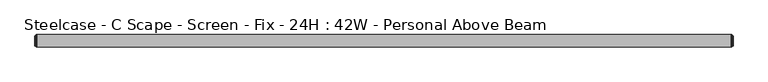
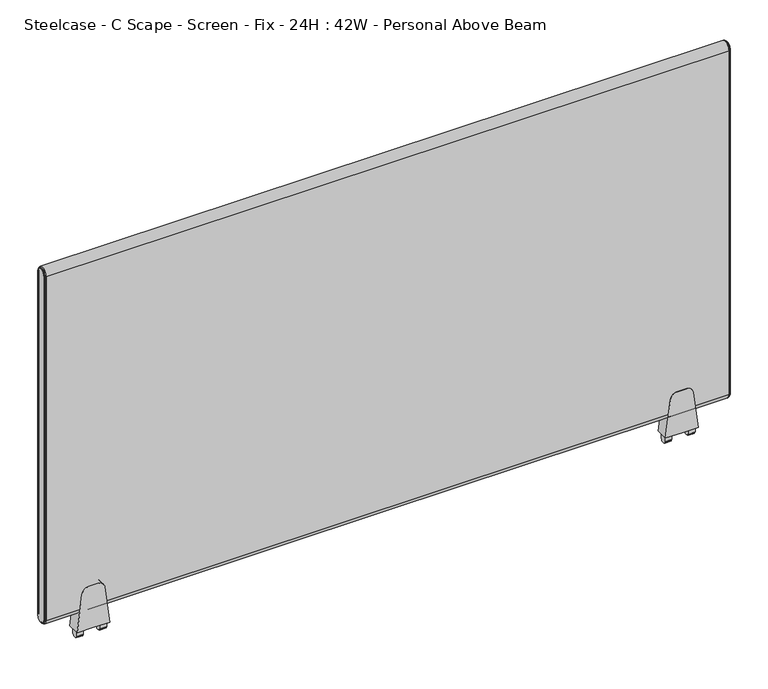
"""IFC4 building model written with IfcOpenShell, lengths in millimetres: furniture geometry, Steelcase - C Scape - Screen - Fix - 24H : 42W - Personal Above Beam."""

import ifcopenshell
import ifcopenshell.guid

model = None  # the IFC model being written
_history = None  # IfcOwnerHistory: only IFC2X3 demands one
_inside = {}  # id of a spatial element -> (the spatial element, [elements in it])
_under = {}  # id of a project, library or spatial element -> (it, [spatial elements below it])
_declared = {}  # id of a project -> (the project, [libraries it declares])
_typed = {}  # id of a type object -> (the type object, [elements of that type])
_made_of = {}  # id of a material, layer set ... -> (it, [elements and type objects made of it])


def new_model(schema):
    """Start an empty IFC model of exactly this schema.

    Asked for "IFC4X3", IfcOpenShell would pick the latest addendum, in which some entities
    have other attributes; the version numbers below select the first issue.
    IFC2X3 requires an IfcOwnerHistory on every rooted entity: one is made here for all.
    """
    global model, _history
    if schema == "IFC4X3":
        model = ifcopenshell.file(schema_version=(4, 3, 0, 0))
    else:
        model = ifcopenshell.file(schema=schema)
    _inside.clear()
    _under.clear()
    _declared.clear()
    _typed.clear()
    _made_of.clear()
    _history = None
    if model.schema == "IFC2X3":
        org = make("IfcOrganization", Name="unknown")
        user = make(
            "IfcPersonAndOrganization",
            ThePerson=make("IfcPerson", FamilyName="unknown"),
            TheOrganization=org,
        )
        app = make(
            "IfcApplication",
            ApplicationDeveloper=org,
            Version="unknown",
            ApplicationFullName="unknown",
            ApplicationIdentifier="unknown",
        )
        _history = make(
            "IfcOwnerHistory",
            OwningUser=user,
            OwningApplication=app,
            ChangeAction="ADDED",
            CreationDate=0,
        )
    return model


def make(cls, **values):
    """One entity of the class cls with the attributes given. An attribute that is None is left unset."""
    return model.create_entity(
        cls, **{name: value for name, value in values.items() if value is not None}
    )


def rooted(cls, **values):
    """An entity with a GlobalId (a new one), such as an element, a storey or a relation."""
    return make(cls, GlobalId=ifcopenshell.guid.new(), OwnerHistory=_history, **values)


def si_unit(unit_type, name, prefix=None):
    """IfcSIUnit, for example si_unit("LENGTHUNIT", "METRE", prefix="MILLI")."""
    return make("IfcSIUnit", UnitType=unit_type, Prefix=prefix, Name=name)


def assignment(units):
    """IfcUnitAssignment: the units of a project."""
    return None if units is None else make("IfcUnitAssignment", Units=units)


def point(xyz):
    """IfcCartesianPoint."""
    return None if xyz is None else make("IfcCartesianPoint", Coordinates=xyz)


def direction(xyz):
    """IfcDirection."""
    return None if xyz is None else make("IfcDirection", DirectionRatios=xyz)


def frame(location, z_axis=None, x_axis=None):
    """IfcAxis2Placement3D, a coordinate frame: its origin and axes. An axis left out is left unset."""
    return make(
        "IfcAxis2Placement3D",
        Location=point(location),
        Axis=direction(z_axis),
        RefDirection=direction(x_axis),
    )


def frame_2d(location, x_axis=None):
    """IfcAxis2Placement2D, a coordinate frame in the plane: its origin and x axis."""
    return make(
        "IfcAxis2Placement2D", Location=point(location), RefDirection=direction(x_axis)
    )


def origin():
    """The frame at (0, 0, 0) with its axes left unset."""
    return frame((0.0, 0.0, 0.0))


def place(relative_to, where):
    """IfcLocalPlacement: puts the frame where relative to a parent placement (None: the world)."""
    return make(
        "IfcLocalPlacement", PlacementRelTo=relative_to, RelativePlacement=where
    )


def context(
    kind, dimensions, precision=None, world=None, true_north=None, identifier=None
):
    """IfcGeometricRepresentationContext, for example the 3D "Model" context."""
    return make(
        "IfcGeometricRepresentationContext",
        ContextIdentifier=identifier,
        ContextType=kind,
        CoordinateSpaceDimension=dimensions,
        Precision=precision,
        WorldCoordinateSystem=world,
        TrueNorth=true_north,
    )


def project(units=None, contexts=None):
    """IfcProject with its units and contexts."""
    return rooted(
        "IfcProject",
        Name="project",
        RepresentationContexts=contexts,
        UnitsInContext=assignment(units),
    )


def spatial(cls, under=None, at=None, **own):
    """A site, building, storey or space (cls), placed at a placement, below another one or the project."""
    s = rooted(cls, ObjectPlacement=at, **own)
    if under is not None:
        _under.setdefault(under.id(), (under, []))[1].append(s)
    return s


def polyline(points):
    """IfcPolyline through the points."""
    return make("IfcPolyline", Points=[point(p) for p in points])


def circle_curve(where, radius):
    """IfcCircle in the frame where."""
    return make("IfcCircle", Position=where, Radius=radius)


def ellipse_curve(where, semi_axis1, semi_axis2):
    """IfcEllipse in the frame where."""
    return make(
        "IfcEllipse", Position=where, SemiAxis1=semi_axis1, SemiAxis2=semi_axis2
    )


def trimmed(basis, trim1, trim2, sense, master):
    """IfcTrimmedCurve: the piece of a basis curve between two trims."""
    return make(
        "IfcTrimmedCurve",
        BasisCurve=basis,
        Trim1=trim1,
        Trim2=trim2,
        SenseAgreement=sense,
        MasterRepresentation=master,
    )


def segment(curve, same_sense, transition):
    """IfcCompositeCurveSegment."""
    return make(
        "IfcCompositeCurveSegment",
        Transition=transition,
        SameSense=same_sense,
        ParentCurve=curve,
    )


def composite_curve(segments, self_intersect=None):
    """IfcCompositeCurve: segments joined end to end."""
    return make("IfcCompositeCurve", Segments=segments, SelfIntersect=self_intersect)


def outline(outer, holes=None, kind="AREA"):
    """IfcArbitraryClosedProfileDef: a profile drawn as a closed curve; with holes, ...WithVoids."""
    if holes is None:
        return make("IfcArbitraryClosedProfileDef", ProfileType=kind, OuterCurve=outer)
    return make(
        "IfcArbitraryProfileDefWithVoids",
        ProfileType=kind,
        OuterCurve=outer,
        InnerCurves=holes,
    )


def extrude(swept, where, along, depth):
    """IfcExtrudedAreaSolid: the profile swept, set in the frame where, extruded along a direction by depth."""
    return make(
        "IfcExtrudedAreaSolid",
        SweptArea=swept,
        Position=where,
        ExtrudedDirection=direction(along),
        Depth=depth,
    )


def shape(context_of_items, identifier, shape_type, items):
    """IfcShapeRepresentation: the items that make up one representation, for example the "Body"."""
    return make(
        "IfcShapeRepresentation",
        ContextOfItems=context_of_items,
        RepresentationIdentifier=identifier,
        RepresentationType=shape_type,
        Items=items,
    )


def source(mapping_origin, context_of_items, identifier, shape_type, items):
    """IfcRepresentationMap: a shape defined once, which mapped items show again and again."""
    return make(
        "IfcRepresentationMap",
        MappingOrigin=mapping_origin,
        MappedRepresentation=shape(context_of_items, identifier, shape_type, items),
    )


def transform(
    local_origin,
    x_axis=None,
    y_axis=None,
    z_axis=None,
    scale=None,
    scale2=None,
    scale3=None,
    uniform=True,
):
    """IfcCartesianTransformationOperator3D, or its non-uniform kind. x_axis, y_axis, z_axis: its Axis1, 2, 3."""
    if uniform:
        return make(
            "IfcCartesianTransformationOperator3D",
            Axis1=direction(x_axis),
            Axis2=direction(y_axis),
            LocalOrigin=point(local_origin),
            Scale=scale,
            Axis3=direction(z_axis),
        )
    return make(
        "IfcCartesianTransformationOperator3DnonUniform",
        Axis1=direction(x_axis),
        Axis2=direction(y_axis),
        LocalOrigin=point(local_origin),
        Scale=scale,
        Axis3=direction(z_axis),
        Scale2=scale2,
        Scale3=scale3,
    )


def mapped(mapping_source, mapping_target):
    """IfcMappedItem: shows the shape of a source again, moved by a transform."""
    return make(
        "IfcMappedItem", MappingSource=mapping_source, MappingTarget=mapping_target
    )


def made_of(thing, what):
    """Note that an element or type object is made of a material, layer set ...; save() writes the relation."""
    if what is not None:
        _made_of.setdefault(what.id(), (what, []))[1].append(thing)
    return thing


def element(
    cls,
    number,
    at=None,
    inside=None,
    cuts=None,
    type_object=None,
    material=None,
    context=None,
    identifier="Body",
    shape_type=None,
    held_by="IfcProductDefinitionShape",
    body=None,
    shapes=None,
    **own,
):
    """One element of the class cls, such as IfcWall. Its Tag is "e" and its number.

    at: its placement. inside: the storey or other place that contains it. cuts: it is an
    opening in that element (IfcRelVoidsElement). A single representation is given by context,
    identifier, shape_type and body (its items); several are given by shapes. held_by: the class
    of the entity that holds the representations. save() writes the other relations.
    """
    e = rooted(cls, Tag="e%d" % number, ObjectPlacement=at, **own)
    if body is not None:
        shapes = [shape(context, identifier, shape_type, body)]
    if shapes is not None:
        e.Representation = make(held_by, Representations=shapes)
    if inside is not None:
        _inside.setdefault(inside.id(), (inside, []))[1].append(e)
    if cuts is not None:
        rooted(
            "IfcRelVoidsElement", RelatingBuildingElement=cuts, RelatedOpeningElement=e
        )
    if type_object is not None:
        _typed.setdefault(type_object.id(), (type_object, []))[1].append(e)
    return made_of(e, material)


def aggregate(whole, parts):
    """IfcRelAggregates: a whole, such as a stair, and the parts it consists of."""
    return rooted("IfcRelAggregates", RelatingObject=whole, RelatedObjects=parts)


def save(model, path):
    """Write the relations noted so far, then the file.

    IfcRelAggregates (storeys below a building ...), IfcRelContainedInSpatialStructure (elements
    in a storey), IfcRelDefinesByType, IfcRelAssociatesMaterial and IfcRelDeclares: one each for
    every whole, place, type object, material and project.
    """
    for whole, parts in _under.values():
        aggregate(whole, parts)
    for where, things in _inside.values():
        rooted(
            "IfcRelContainedInSpatialStructure",
            RelatedElements=things,
            RelatingStructure=where,
        )
    for kind, things in _typed.values():
        rooted("IfcRelDefinesByType", RelatedObjects=things, RelatingType=kind)
    for what, things in _made_of.values():
        rooted("IfcRelAssociatesMaterial", RelatedObjects=things, RelatingMaterial=what)
    for by, libraries in _declared.values():
        rooted("IfcRelDeclares", RelatingContext=by, RelatedDefinitions=libraries)
    model.write(path)


def plane_surface(at):
    """IfcPlane: the flat surface through the origin of the frame at, square to its z axis."""
    return make("IfcPlane", Position=at)


def cylinder_surface(at, radius):
    """IfcCylindricalSurface: all points at the distance radius from the z axis of the frame at."""
    return make("IfcCylindricalSurface", Position=at, Radius=radius)


def revolved_surface(curve, axis_point, axis_direction):
    """IfcSurfaceOfRevolution: the curve turned about the line through axis_point along axis_direction."""
    return make(
        "IfcSurfaceOfRevolution",
        SweptCurve=make("IfcArbitraryOpenProfileDef", ProfileType="CURVE", Curve=curve),
        AxisPosition=make("IfcAxis1Placement", Location=point(axis_point), Axis=direction(axis_direction)),
    )


def advanced_brep(points, edges, surfaces, faces):
    """IfcAdvancedBrep: a solid bounded by faces that lie on surfaces and meet in shared edges.

    An edge is (start, end): straight between two places in points (the first is 0);
    or (start, end, curve); or (start, end, curve, False) where it runs against its curve.
    A face is (place in surfaces, loops), or (place, loops, False) where it looks against
    its surface's normal. A loop lists edges by number (the first is 1), with a minus sign
    where the edge is run from its end to its start. The first loop is the outer one.
    """
    corners = [point(p) for p in points]
    vertices = [make("IfcVertexPoint", VertexGeometry=c) for c in corners]
    made = []
    for start, end, *more in edges:
        made.append(
            make(
                "IfcEdgeCurve",
                EdgeStart=vertices[start],
                EdgeEnd=vertices[end],
                EdgeGeometry=more[0] if more else make("IfcPolyline", Points=[corners[start], corners[end]]),
                SameSense=more[1] if len(more) > 1 else True,
            )
        )
    hull = []
    for where, loops, *sense in faces:
        bounds = []
        for j, loop in enumerate(loops):
            ring = [make("IfcOrientedEdge", EdgeElement=made[abs(k) - 1], Orientation=k > 0) for k in loop]
            bounds.append(
                make(
                    "IfcFaceOuterBound" if j == 0 else "IfcFaceBound",
                    Bound=make("IfcEdgeLoop", EdgeList=ring),
                    Orientation=True,
                )
            )
        hull.append(make("IfcAdvancedFace", Bounds=bounds, FaceSurface=surfaces[where], SameSense=sense[0] if sense else True))
    return make("IfcAdvancedBrep", Outer=make("IfcClosedShell", CfsFaces=hull))


def steelcase_c_scape_screen_fix_24h_42w_personal_above_beam_546037a9(model_context):
    return source(origin(), model_context, "Body", "SolidModel", [
        extrude(outline(composite_curve([segment(polyline([(609.511112, 101.4730434), (669.8362421, 94.0661495)]), True, "CONTINUOUS"), segment(trimmed(circle_curve(frame_2d((668.5143718, 83.300233)), 10.8467645), [point((669.8362421, 94.0661495))], [point((679.3611362, 83.300233))], False, "CARTESIAN"), True, "CONTINUOUS"), segment(polyline([(679.3611362, 83.300233), (679.3611362, 76.2001674), (679.3611362, 69.1001018)]), True, "CONTINUOUS"), segment(trimmed(circle_curve(frame_2d((668.5143718, 69.1001018)), 10.8467645), [point((679.3611362, 69.1001018))], [point((669.8362421, 58.3341853))], False, "CARTESIAN"), True, "CONTINUOUS"), segment(polyline([(669.8362421, 58.3341853), (609.511112, 50.9272915), (609.511112, 76.2001674), (609.511112, 101.4730434)]), True, "CONTINUOUS")], self_intersect=False)), frame((0.0, -9.525, 0.0), z_axis=(0.0, 1.0, 0.0), x_axis=(0.0, 0.0, 1.0)), (0.0, 0.0, 1.0), 19.05),
        extrude(outline(polyline([(4.5465975, 609.511112), (4.5465975, 599.6051033), (4.0139265, 598.7186748), (2.9972008, 598.7186748), (2.9972008, 596.4834188), (0.0, 596.392), (-2.9972008, 596.4834188), (-2.9972008, 598.7186748), (-4.0139265, 598.7186748), (-4.5465975, 599.6051033), (-4.5465975, 609.511112), (0.0, 609.511112), (4.5465975, 609.511112)])), frame((88.9267162, 0.0, 0.0), z_axis=(1.0, 0.0, 0.0), x_axis=(0.0, 1.0, 0.0)), (0.0, 0.0, 1.0), 10.7813187),
        extrude(outline(polyline([(4.5465975, 609.511112), (4.5465975, 599.6051033), (4.0139265, 598.7186748), (2.9972008, 598.7186748), (2.9972008, 596.4834188), (0.0, 596.392), (-2.9972008, 596.4834188), (-2.9972008, 598.7186748), (-4.0139265, 598.7186748), (-4.5465975, 599.6051033), (-4.5465975, 609.511112), (0.0, 609.511112), (4.5465975, 609.511112)])), frame((52.6923, 0.0, 0.0), z_axis=(1.0, 0.0, 0.0), x_axis=(0.0, 1.0, 0.0)), (0.0, 0.0, 1.0), 10.7813187),
        extrude(outline(composite_curve([segment(polyline([(609.511112, 1015.1107132), (669.8362421, 1007.7038193)]), True, "CONTINUOUS"), segment(trimmed(circle_curve(frame_2d((668.5143718, 996.9379028)), 10.8467645), [point((669.8362421, 1007.7038193))], [point((679.3611362, 996.9379028))], False, "CARTESIAN"), True, "CONTINUOUS"), segment(polyline([(679.3611362, 996.9379028), (679.3611362, 989.8378372), (679.3611362, 982.7377716)]), True, "CONTINUOUS"), segment(trimmed(circle_curve(frame_2d((668.5143718, 982.7377716)), 10.8467645), [point((679.3611362, 982.7377716))], [point((669.8362421, 971.9718551))], False, "CARTESIAN"), True, "CONTINUOUS"), segment(polyline([(669.8362421, 971.9718551), (609.511112, 964.5649612), (609.511112, 989.8378372), (609.511112, 1015.1107132)]), True, "CONTINUOUS")], self_intersect=False)), frame((0.0, -9.525, 0.0), z_axis=(0.0, 1.0, 0.0), x_axis=(0.0, 0.0, 1.0)), (0.0, 0.0, 1.0), 19.05),
        extrude(outline(polyline([(4.5465975, 609.511112), (4.5465975, 599.6051033), (4.0139265, 598.7186748), (2.9972008, 598.7186748), (2.9972008, 596.4834188), (0.0, 596.392), (-2.9972008, 596.4834188), (-2.9972008, 598.7186748), (-4.0139265, 598.7186748), (-4.5465975, 599.6051033), (-4.5465975, 609.511112), (0.0, 609.511112), (4.5465975, 609.511112)])), frame((1002.564386, 0.0, 0.0), z_axis=(1.0, 0.0, 0.0), x_axis=(0.0, 1.0, 0.0)), (0.0, 0.0, 1.0), 10.7813187),
        extrude(outline(polyline([(4.5465975, 609.511112), (4.5465975, 599.6051033), (4.0139265, 598.7186748), (2.9972008, 598.7186748), (2.9972008, 596.4834188), (0.0, 596.392), (-2.9972008, 596.4834188), (-2.9972008, 598.7186748), (-4.0139265, 598.7186748), (-4.5465975, 599.6051033), (-4.5465975, 609.511112), (0.0, 609.511112), (4.5465975, 609.511112)])), frame((966.3299698, 0.0, 0.0), z_axis=(1.0, 0.0, 0.0), x_axis=(0.0, 1.0, 0.0)), (0.0, 0.0, 1.0), 10.7813187),
        advanced_brep(
        [(1063.2486613, -9.525, 1211.707), (1063.2486613, 9.525, 1211.707), (1063.2486613, 9.525, 646.557), (1063.2486613, -9.525, 646.557), (1066.0426613, 7.4929583, 1211.707), (1066.0426613, -7.4929583, 1211.707), (1066.0426613, -7.4929583, 646.557), (1066.0426613, 7.4929583, 646.557), (1065.5346545, -8.0009651, 1211.707), (1065.5346545, 8.0009651, 1211.707), (1064.2646613, 8.0009651, 1211.707), (1064.2646613, -8.0009651, 1211.707), (1064.2646613, -8.8204932, 1211.707), (1064.2646613, 8.8204932, 1211.707), (1064.2646613, -8.0009651, 646.557), (1065.5346545, -8.0009651, 646.557), (1064.2646613, -8.8204932, 646.557), (1064.2646613, 8.0009651, 646.557), (1065.5346545, 8.0009651, 646.557), (1064.2646613, 8.8204932, 646.557)],
        [
            (0, 1, circle_curve(frame((1063.2486613, 0.0, 1211.707), z_axis=(-1.0, 0.0, 0.0), x_axis=(0.0, 1.0, 0.0)), 9.525)),
            (1, 2),
            (2, 3, circle_curve(frame((1063.2486613, 0.0, 646.557), z_axis=(-1.0, 0.0, 0.0), x_axis=(0.0, -1.0, 0.0)), 9.525)),
            (3, 0),
            (4, 5, circle_curve(frame((1066.0426613, 0.0, 1211.707), z_axis=(1.0, 0.0, 0.0), x_axis=(0.0, 1.0, 0.0)), 7.4929583)),
            (5, 6),
            (6, 7, circle_curve(frame((1066.0426613, 0.0, 646.557), z_axis=(1.0, 0.0, 0.0), x_axis=(0.0, -1.0, 0.0)), 7.4929583)),
            (7, 4),
            (8, 9, circle_curve(frame((1065.5346545, 0.0, 1211.707), z_axis=(-1.0, 0.0, 0.0), x_axis=(0.0, 1.0, 0.0)), 8.0009651)),
            (9, 10),
            (10, 11, circle_curve(frame((1064.2646613, 0.0, 1211.707), z_axis=(1.0, 0.0, 0.0), x_axis=(0.0, 1.0, 0.0)), 8.0009651)),
            (11, 8),
            (8, 5, circle_curve(frame((1065.5346545, -7.4929583, 1211.707), z_axis=(0.0, 0.0, 1.0), x_axis=(0.0, -1.0, 0.0)), 0.5080068)),
            (4, 9, circle_curve(frame((1065.5346545, 7.4929583, 1211.707), z_axis=(0.0, 0.0, 1.0), x_axis=(0.0, 1.0, 0.0)), 0.5080068)),
            (12, 13, circle_curve(frame((1064.2646613, 0.0, 1211.707), z_axis=(-1.0, 0.0, 0.0), x_axis=(0.0, 1.0, 0.0)), 8.8204932)),
            (13, 1, circle_curve(frame((1063.1806211, 8.3420139, 1211.707), z_axis=(0.0, 0.0, 1.0), x_axis=(0.0, 1.0, 0.0)), 1.1849411)),
            (0, 12, circle_curve(frame((1063.1806211, -8.3420139, 1211.707), z_axis=(0.0, 0.0, 1.0), x_axis=(0.0, -1.0, 0.0)), 1.1849411)),
            (11, 14),
            (14, 15),
            (15, 8),
            (15, 6, circle_curve(frame((1065.5346545, -7.4929583, 646.557), z_axis=(0.0, 0.0, 1.0), x_axis=(0.0, -1.0, 0.0)), 0.5080068)),
            (3, 16, circle_curve(frame((1063.1806211, -8.3420139, 646.557), z_axis=(0.0, 0.0, 1.0), x_axis=(0.0, -1.0, 0.0)), 1.1849411)),
            (16, 12),
            (14, 17, circle_curve(frame((1064.2646613, 0.0, 646.557), z_axis=(1.0, 0.0, 0.0), x_axis=(0.0, -1.0, 0.0)), 8.0009651)),
            (17, 18),
            (18, 15, circle_curve(frame((1065.5346545, 0.0, 646.557), z_axis=(-1.0, 0.0, 0.0), x_axis=(0.0, -1.0, 0.0)), 8.0009651)),
            (18, 7, circle_curve(frame((1065.5346545, 7.4929583, 646.557), z_axis=(0.0, 0.0, -1.0), x_axis=(0.0, 1.0, 0.0)), 0.5080068)),
            (2, 19, circle_curve(frame((1063.1806211, 8.3420139, 646.557), z_axis=(0.0, 0.0, -1.0), x_axis=(0.0, 1.0, 0.0)), 1.1849411)),
            (19, 16, circle_curve(frame((1064.2646613, 0.0, 646.557), z_axis=(-1.0, 0.0, 0.0), x_axis=(0.0, -1.0, 0.0)), 8.8204932)),
            (9, 18),
            (17, 10),
            (13, 19),
        ],
        [
            plane_surface(frame((1063.2486613, -6.3509705, 1211.707), z_axis=(-1.0, 0.0, 0.0), x_axis=(0.0, 0.0, 1.0))),
            plane_surface(frame((1066.0426613, -6.3509705, 1211.707), z_axis=(1.0, 0.0, 0.0), x_axis=(0.0, 0.0, -1.0))),
            cylinder_surface(frame((1063.2486613, 0.0, 1211.707), z_axis=(1.0, 0.0, 0.0), x_axis=(0.0, 1.0, 0.0)), 8.0009651),
            revolved_surface(trimmed(ellipse_curve(frame((1065.5346545, 7.4929583, 1211.707), z_axis=(0.0, 0.0, -1.0), x_axis=(0.0, 1.0, 0.0)), 0.5080068, 0.5080068), [point((1065.5346545, 8.0009651, 1211.707))], [point((1066.0426613, 7.4929583, 1211.707))], True, "CARTESIAN"), (1063.2486613, 0.0, 1211.707), (1.0, 0.0, 0.0)),
            revolved_surface(trimmed(ellipse_curve(frame((1063.1806211, 8.3420139, 1211.707), z_axis=(0.0, 0.0, -1.0), x_axis=(0.0, 1.0, 0.0)), 1.1849411, 1.1849411), [point((1063.2486613, 9.525, 1211.707))], [point((1064.2646613, 8.8204932, 1211.707))], True, "CARTESIAN"), (1063.2486613, 0.0, 1211.707), (1.0, 0.0, 0.0)),
            plane_surface(frame((1064.2646613, -8.0009651, 1211.707), z_axis=(0.0, -1.0, 0.0), x_axis=(0.0, 0.0, -1.0))),
            cylinder_surface(frame((1065.5346545, -7.4929583, 1211.707), z_axis=(0.0, 0.0, 1.0), x_axis=(0.0, -1.0, 0.0)), 0.5080068),
            cylinder_surface(frame((1063.1806211, -8.3420139, 1211.707), z_axis=(0.0, 0.0, 1.0), x_axis=(0.0, -1.0, 0.0)), 1.1849411),
            cylinder_surface(frame((1063.2486613, 0.0, 646.557), z_axis=(1.0, 0.0, 0.0), x_axis=(0.0, -1.0, 0.0)), 8.0009651),
            revolved_surface(trimmed(ellipse_curve(frame((1065.5346545, -7.4929583, 646.557), z_axis=(0.0, 0.0, 1.0), x_axis=(0.0, -1.0, 0.0)), 0.5080068, 0.5080068), [point((1065.5346545, -8.0009651, 646.557))], [point((1066.0426613, -7.4929583, 646.557))], True, "CARTESIAN"), (1063.2486613, 0.0, 646.557), (1.0, 0.0, 0.0)),
            revolved_surface(trimmed(ellipse_curve(frame((1063.1806211, -8.3420139, 646.557), z_axis=(0.0, 0.0, 1.0), x_axis=(0.0, -1.0, 0.0)), 1.1849411, 1.1849411), [point((1063.2486613, -9.525, 646.557))], [point((1064.2646613, -8.8204932, 646.557))], True, "CARTESIAN"), (1063.2486613, 0.0, 646.557), (1.0, 0.0, 0.0)),
            plane_surface(frame((1064.2646613, 8.0009651, 646.557), z_axis=(0.0, 1.0, 0.0), x_axis=(0.0, 0.0, 1.0))),
            cylinder_surface(frame((1065.5346545, 7.4929583, 646.557), z_axis=(0.0, 0.0, -1.0), x_axis=(0.0, 1.0, 0.0)), 0.5080068),
            cylinder_surface(frame((1063.1806211, 8.3420139, 646.557), z_axis=(0.0, 0.0, -1.0), x_axis=(0.0, 1.0, 0.0)), 1.1849411),
            plane_surface(frame((1064.2646613, 8.8204932, 646.557), z_axis=(1.0, 0.0, 0.0), x_axis=(0.0, 0.0, 1.0))),
        ],
        [
            (0, [[1, 2, 3, 4]]),
            (1, [[5, 6, 7, 8]]),
            (2, [[9, 10, 11, 12]]),
            (3, [[-9, 13, -5, 14]]),
            (4, [[15, 16, -1, 17]]),
            (5, [[-12, 18, 19, 20]]),
            (6, [[-13, -20, 21, -6]]),
            (7, [[-17, -4, 22, 23]]),
            (8, [[-19, 24, 25, 26]]),
            (9, [[-21, -26, 27, -7]]),
            (10, [[-22, -3, 28, 29]]),
            (11, [[-10, 30, -25, 31]]),
            (12, [[-14, -8, -27, -30]]),
            (13, [[-16, 32, -28, -2]]),
            (14, [[-15, -23, -29, -32], [-11, -31, -24, -18]]),
        ],
    ),
        advanced_brep(
        [(2.7940155, 9.525, 1211.707), (2.7940155, -9.525, 1211.707), (2.7940155, -9.525, 646.557), (2.7940155, 9.525, 646.557), (0.0, -7.4929583, 1211.707), (0.0, 7.4929583, 1211.707), (0.0, 7.4929583, 646.557), (0.0, -7.4929583, 646.557), (1.778, 8.8204932, 1211.707), (1.778, -8.8204932, 1211.707), (0.5080068, -8.0009651, 1211.707), (0.5080068, 8.0009651, 1211.707), (1.778, -8.0009651, 1211.707), (1.778, 8.0009651, 1211.707), (1.778, -8.8204932, 646.557), (0.5080068, -8.0009651, 646.557), (1.778, -8.0009651, 646.557), (1.778, 8.8204932, 646.557), (0.5080068, 8.0009651, 646.557), (1.778, 8.0009651, 646.557)],
        [
            (0, 1, circle_curve(frame((2.7940155, 0.0, 1211.707), z_axis=(1.0, 0.0, 0.0), x_axis=(0.0, 1.0, 0.0)), 9.525)),
            (1, 2),
            (2, 3, circle_curve(frame((2.7940155, 0.0, 646.557), z_axis=(1.0, 0.0, 0.0), x_axis=(0.0, -1.0, 0.0)), 9.525)),
            (3, 0),
            (4, 5, circle_curve(frame((0.0, 0.0, 1211.707), z_axis=(-1.0, 0.0, 0.0), x_axis=(0.0, 1.0, 0.0)), 7.4929583)),
            (5, 6),
            (6, 7, circle_curve(frame((0.0, 0.0, 646.557), z_axis=(-1.0, 0.0, 0.0), x_axis=(0.0, -1.0, 0.0)), 7.4929583)),
            (7, 4),
            (0, 8, circle_curve(frame((2.8620402, 8.3420139, 1211.707), z_axis=(0.0, 0.0, 1.0), x_axis=(0.0, -1.0, 0.0)), 1.1849411)),
            (8, 9, circle_curve(frame((1.778, 0.0, 1211.707), z_axis=(1.0, 0.0, 0.0), x_axis=(0.0, 1.0, 0.0)), 8.8204932)),
            (9, 1, circle_curve(frame((2.8620402, -8.3420139, 1211.707), z_axis=(0.0, 0.0, 1.0), x_axis=(0.0, 1.0, 0.0)), 1.1849411)),
            (10, 11, circle_curve(frame((0.5080068, 0.0, 1211.707), z_axis=(-1.0, 0.0, 0.0), x_axis=(0.0, 1.0, 0.0)), 8.0009651)),
            (11, 5, circle_curve(frame((0.5080068, 7.4929583, 1211.707), z_axis=(0.0, 0.0, 1.0), x_axis=(0.0, -1.0, 0.0)), 0.5080068)),
            (4, 10, circle_curve(frame((0.5080068, -7.4929583, 1211.707), z_axis=(0.0, 0.0, 1.0), x_axis=(0.0, 1.0, 0.0)), 0.5080068)),
            (10, 12),
            (12, 13, circle_curve(frame((1.778, 0.0, 1211.707), z_axis=(-1.0, 0.0, 0.0), x_axis=(0.0, 1.0, 0.0)), 8.0009651)),
            (13, 11),
            (9, 14),
            (14, 2, circle_curve(frame((2.8620402, -8.3420139, 646.557), z_axis=(0.0, 0.0, 1.0), x_axis=(0.0, 1.0, 0.0)), 1.1849411)),
            (7, 15, circle_curve(frame((0.5080068, -7.4929583, 646.557), z_axis=(0.0, 0.0, 1.0), x_axis=(0.0, 1.0, 0.0)), 0.5080068)),
            (15, 10),
            (15, 16),
            (16, 12),
            (14, 17, circle_curve(frame((1.778, 0.0, 646.557), z_axis=(1.0, 0.0, 0.0), x_axis=(0.0, -1.0, 0.0)), 8.8204932)),
            (17, 3, circle_curve(frame((2.8620402, 8.3420139, 646.557), z_axis=(0.0, 0.0, -1.0), x_axis=(0.0, -1.0, 0.0)), 1.1849411)),
            (6, 18, circle_curve(frame((0.5080068, 7.4929583, 646.557), z_axis=(0.0, 0.0, -1.0), x_axis=(0.0, -1.0, 0.0)), 0.5080068)),
            (18, 15, circle_curve(frame((0.5080068, 0.0, 646.557), z_axis=(-1.0, 0.0, 0.0), x_axis=(0.0, -1.0, 0.0)), 8.0009651)),
            (18, 19),
            (19, 16, circle_curve(frame((1.778, 0.0, 646.557), z_axis=(-1.0, 0.0, 0.0), x_axis=(0.0, -1.0, 0.0)), 8.0009651)),
            (8, 17),
            (19, 13),
            (11, 18),
        ],
        [
            plane_surface(frame((2.7940155, -6.3509705, 1211.707), z_axis=(1.0, 0.0, 0.0), x_axis=(0.0, 0.0, -1.0))),
            plane_surface(frame((0.0, -6.3509705, 1211.707), z_axis=(-1.0, 0.0, 0.0), x_axis=(0.0, 0.0, 1.0))),
            revolved_surface(trimmed(ellipse_curve(frame((2.8620402, 8.3420139, 1211.707), z_axis=(0.0, 0.0, -1.0), x_axis=(0.0, -1.0, 0.0)), 1.1849411, 1.1849411), [point((1.778, 8.8204932, 1211.707))], [point((2.794, 9.525, 1211.707))], True, "CARTESIAN"), (2.794, 0.0, 1211.707), (1.0, 0.0, 0.0)),
            revolved_surface(trimmed(ellipse_curve(frame((0.5080068, 7.4929583, 1211.707), z_axis=(0.0, 0.0, -1.0), x_axis=(0.0, -1.0, 0.0)), 0.5080068, 0.5080068), [point((0.0, 7.4929583, 1211.707))], [point((0.5080068, 8.0009651, 1211.707))], True, "CARTESIAN"), (2.794, 0.0, 1211.707), (1.0, 0.0, 0.0)),
            cylinder_surface(frame((2.794, 0.0, 1211.707), z_axis=(1.0, 0.0, 0.0), x_axis=(0.0, 1.0, 0.0)), 8.0009651),
            cylinder_surface(frame((2.8620402, -8.3420139, 1211.707), z_axis=(0.0, 0.0, 1.0), x_axis=(0.0, 1.0, 0.0)), 1.1849411),
            cylinder_surface(frame((0.5080068, -7.4929583, 1211.707), z_axis=(0.0, 0.0, 1.0), x_axis=(0.0, 1.0, 0.0)), 0.5080068),
            plane_surface(frame((0.5080068, -8.0009651, 1211.707), z_axis=(0.0, -1.0, 0.0), x_axis=(0.0, 0.0, -1.0))),
            revolved_surface(trimmed(ellipse_curve(frame((2.8620402, -8.3420139, 646.557), z_axis=(0.0, 0.0, 1.0), x_axis=(0.0, 1.0, 0.0)), 1.1849411, 1.1849411), [point((1.778, -8.8204932, 646.557))], [point((2.794, -9.525, 646.557))], True, "CARTESIAN"), (2.794, 0.0, 646.557), (1.0, 0.0, 0.0)),
            revolved_surface(trimmed(ellipse_curve(frame((0.5080068, -7.4929583, 646.557), z_axis=(0.0, 0.0, 1.0), x_axis=(0.0, 1.0, 0.0)), 0.5080068, 0.5080068), [point((0.0, -7.4929583, 646.557))], [point((0.5080068, -8.0009651, 646.557))], True, "CARTESIAN"), (2.794, 0.0, 646.557), (1.0, 0.0, 0.0)),
            cylinder_surface(frame((2.794, 0.0, 646.557), z_axis=(1.0, 0.0, 0.0), x_axis=(0.0, -1.0, 0.0)), 8.0009651),
            plane_surface(frame((1.778, 8.0009651, 646.557), z_axis=(-1.0, 0.0, 0.0), x_axis=(0.0, 0.0, 1.0))),
            cylinder_surface(frame((2.8620402, 8.3420139, 646.557), z_axis=(0.0, 0.0, -1.0), x_axis=(0.0, -1.0, 0.0)), 1.1849411),
            cylinder_surface(frame((0.5080068, 7.4929583, 646.557), z_axis=(0.0, 0.0, -1.0), x_axis=(0.0, -1.0, 0.0)), 0.5080068),
            plane_surface(frame((0.5080068, 8.0009651, 646.557), z_axis=(0.0, 1.0, 0.0), x_axis=(0.0, 0.0, 1.0))),
        ],
        [
            (0, [[1, 2, 3, 4]]),
            (1, [[5, 6, 7, 8]]),
            (2, [[-1, 9, 10, 11]]),
            (3, [[12, 13, -5, 14]]),
            (4, [[-12, 15, 16, 17]]),
            (5, [[-11, 18, 19, -2]]),
            (6, [[-14, -8, 20, 21]]),
            (7, [[-15, -21, 22, 23]]),
            (8, [[-19, 24, 25, -3]]),
            (9, [[-20, -7, 26, 27]]),
            (10, [[-22, -27, 28, 29]]),
            (11, [[-10, 30, -24, -18], [-16, -23, -29, 31]]),
            (12, [[-9, -4, -25, -30]]),
            (13, [[-13, 32, -26, -6]]),
            (14, [[-17, -31, -28, -32]]),
        ],
    ),
        extrude(outline(composite_curve([segment(trimmed(circle_curve(frame_2d((0.0, 1211.707)), 9.525), [point((-9.525, 1211.707))], [point((9.525, 1211.707))], False, "CARTESIAN"), True, "CONTINUOUS"), segment(polyline([(9.525, 1211.707), (9.525, 646.557)]), True, "CONTINUOUS"), segment(trimmed(circle_curve(frame_2d((0.0, 646.557)), 9.525), [point((9.525, 646.557))], [point((-9.525, 646.557))], False, "CARTESIAN"), True, "CONTINUOUS"), segment(polyline([(-9.525, 646.557), (-9.525, 1211.707)]), True, "CONTINUOUS")], self_intersect=False)), frame((2.794, 0.0, 0.0), z_axis=(1.0, 0.0, 0.0), x_axis=(0.0, 1.0, 0.0)), (0.0, 0.0, 1.0), 1060.4546613),
    ])


if __name__ == "__main__":
    model = new_model("IFC4")
    model_context = context("Model", 3, world=origin())
    ifc_project = project(units=[si_unit("LENGTHUNIT", "METRE", prefix="MILLI")], contexts=[model_context])
    site = spatial("IfcSite", under=ifc_project)
    building = spatial("IfcBuilding", under=site)
    placement = place(None, origin())
    steelcase_c_scape_screen_fix_24h_42w_personal_above_beam_shape = steelcase_c_scape_screen_fix_24h_42w_personal_above_beam_546037a9(model_context)
    element("IfcFurniture", 1, ObjectType="Steelcase - C Scape - Screen - Fix - 24H : 42W - Personal Above Beam", at=placement, inside=building, context=model_context, shape_type="MappedRepresentation", body=[
        mapped(steelcase_c_scape_screen_fix_24h_42w_personal_above_beam_shape, transform((0.0, 0.0, 0.0), x_axis=(1.0, 0.0, 0.0), y_axis=(0.0, 1.0, 0.0), z_axis=(0.0, 0.0, 1.0))),
    ])
    save(model, "model.ifc")
